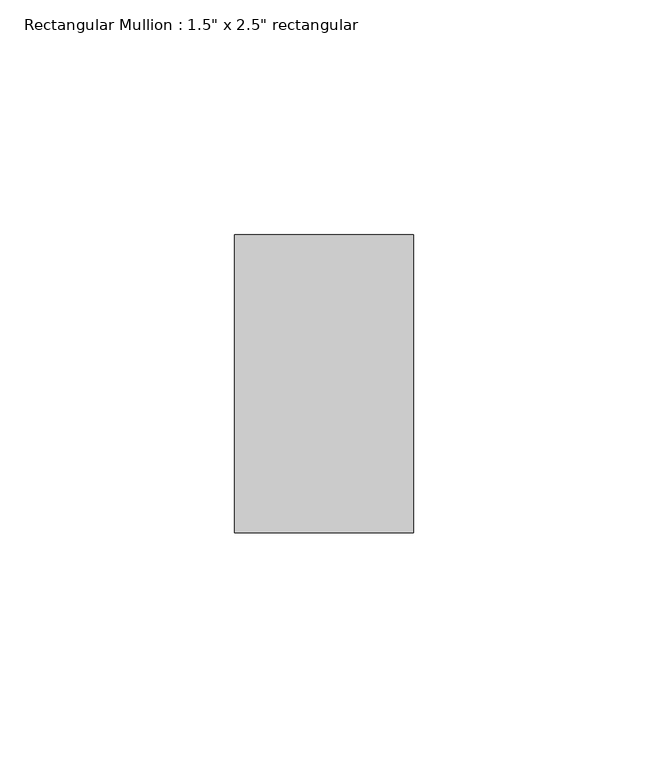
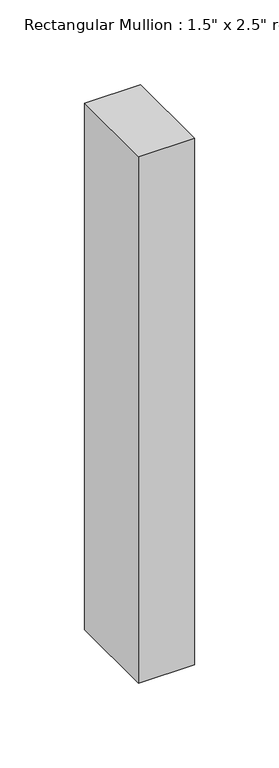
"""IFC4 building model written with IfcOpenShell, lengths in millimetres: member geometry."""

from ifc_helpers import new_model, si_unit, frame, origin, place, context, project, spatial, polyline, outline, extrude, source, transform, mapped, element, save


def member_eeb7ee56(model_context):
    return source(origin(), model_context, "Body", "SweptSolid", [
        extrude(outline(polyline([(19.05, 31.75), (19.05, -31.75), (-19.05, -31.75), (-19.05, 31.75), (19.05, 31.75)])), frame((0.0, 0.0, -379.1388226), z_axis=(0.0, 0.0, 1.0), x_axis=(1.0, 0.0, 0.0)), (0.0, 0.0, 1.0), 379.1388226),
    ])


if __name__ == "__main__":
    model = new_model("IFC4")
    model_context = context("Model", 3, world=origin())
    ifc_project = project(units=[si_unit("LENGTHUNIT", "METRE", prefix="MILLI")], contexts=[model_context])
    site = spatial("IfcSite", under=ifc_project)
    building = spatial("IfcBuilding", under=site)
    placement = place(None, origin())
    member_shape = member_eeb7ee56(model_context)
    element("IfcMember", 1, ObjectType="Rectangular Mullion : 1.5\" x 2.5\" rectangular", at=placement, inside=building, context=model_context, shape_type="MappedRepresentation", body=[
        mapped(member_shape, transform((0.0, 0.0, 0.0), x_axis=(1.0, 0.0, 0.0), y_axis=(0.0, 1.0, 0.0), z_axis=(0.0, 0.0, 1.0))),
    ])
    save(model, "model.ifc")
